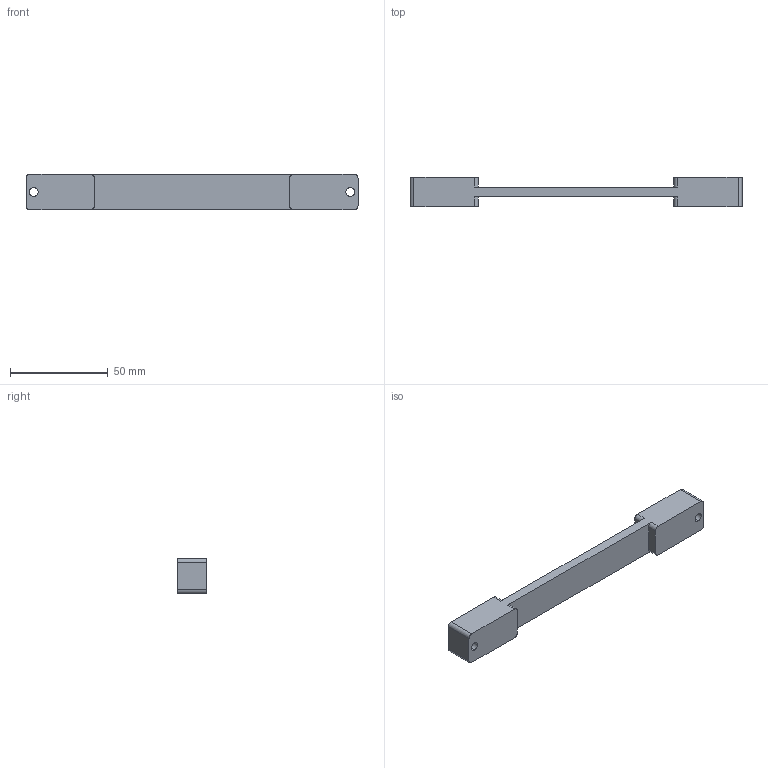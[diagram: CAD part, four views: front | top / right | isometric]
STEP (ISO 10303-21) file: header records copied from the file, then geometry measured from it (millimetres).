
FILE_DESCRIPTION (( 'STEP AP214' ), '1' );
FILE_NAME ('DMi8 stage spacer 15mm rear 1.0.STEP', '2017-07-17T21:07:26', ( '' ), ( '' ), 'SwSTEP 2.0', 'SolidWorks 2016', '' );
FILE_SCHEMA (( 'AUTOMOTIVE_DESIGN' ));
Length unit declared in the file: millimetre
Products named in the file (1): DMi8 stage spacer 15mm rear 1.0
Bounding box: 169.9 x 15 x 18 mm (x, y, z)
Volume: 27310 mm3; surface area: 10381.2 mm2
Topology: 1 solids, 1 shells, 30 faces, 84 edges, 56 vertices
Faces by surface type: cylinder 16, plane 14
Entity records: 1022 total; most frequent: DIRECTION 178, CARTESIAN_POINT 171, ORIENTED_EDGE 168, EDGE_CURVE 84, AXIS2_PLACEMENT_3D 63, VERTEX_POINT 56, LINE 52, VECTOR 52
